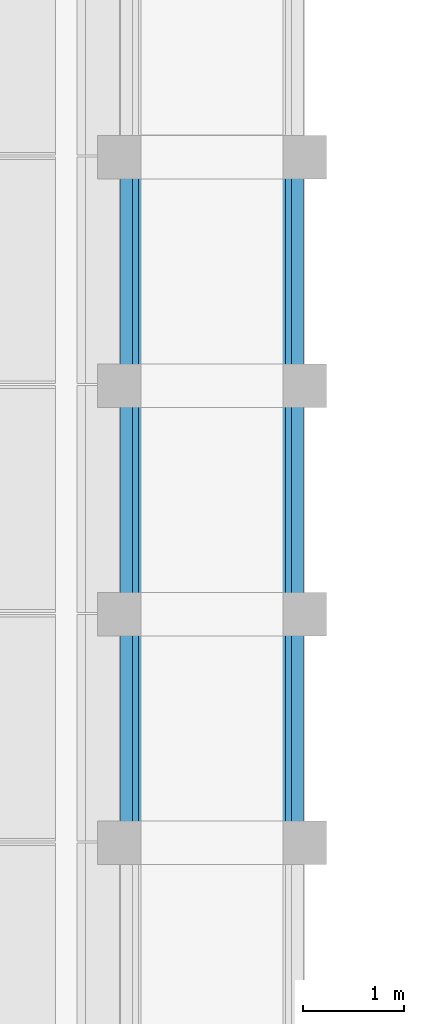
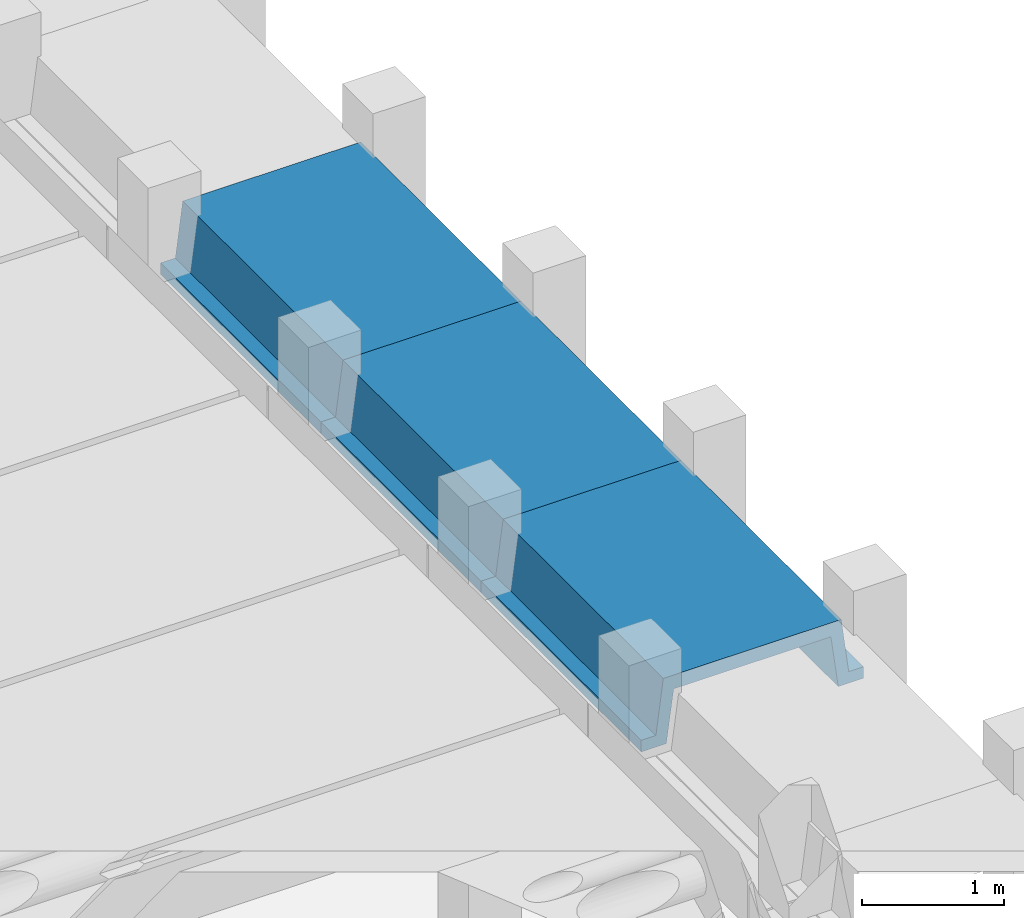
# One storey, part 4 of 21: 3 beams.
"""IFC2X3 building model written with IfcOpenShell, lengths in millimetres."""

from ifc_helpers import new_model, entity, si_unit, converted_unit, derived_unit, direction, frame, origin, place, context, subcontext, project, spatial, polyline, outline, extrude, material, type_object, element, save


model = new_model("IFC2X3")

# Units and contexts
model_context = context("Model", 3, precision=0.01, world=origin(), true_north=direction((6.12303176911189e-17, 1.0)))
body_context = subcontext(model_context, "Body", "Model", "MODEL_VIEW")
ifc_project = project(units=[si_unit("LENGTHUNIT", "METRE", prefix="MILLI"), si_unit("AREAUNIT", "SQUARE_METRE"), si_unit("VOLUMEUNIT", "CUBIC_METRE"), converted_unit("PLANEANGLEUNIT", "DEGREE", entity("IfcRatioMeasure", 0.0174532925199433), si_unit("PLANEANGLEUNIT", "RADIAN"), dimensions=[0, 0, 0, 0, 0, 0, 0]), si_unit("MASSUNIT", "GRAM", prefix="KILO"), derived_unit("MASSDENSITYUNIT", [(si_unit("MASSUNIT", "GRAM", prefix="KILO"), 1), (si_unit("LENGTHUNIT", "METRE"), -3)]), derived_unit("MOMENTOFINERTIAUNIT", [(si_unit("LENGTHUNIT", "METRE"), 4)]), si_unit("TIMEUNIT", "SECOND"), si_unit("FREQUENCYUNIT", "HERTZ"), si_unit("THERMODYNAMICTEMPERATUREUNIT", "DEGREE_CELSIUS"), derived_unit("THERMALTRANSMITTANCEUNIT", [(si_unit("MASSUNIT", "GRAM", prefix="KILO"), 1), (si_unit("THERMODYNAMICTEMPERATUREUNIT", "KELVIN"), -1), (si_unit("TIMEUNIT", "SECOND"), -3)]), derived_unit("VOLUMETRICFLOWRATEUNIT", [(si_unit("LENGTHUNIT", "METRE"), 3), (si_unit("TIMEUNIT", "SECOND"), -1)]), si_unit("ELECTRICCURRENTUNIT", "AMPERE"), si_unit("ELECTRICVOLTAGEUNIT", "VOLT"), si_unit("POWERUNIT", "WATT"), si_unit("FORCEUNIT", "NEWTON", prefix="KILO"), si_unit("ILLUMINANCEUNIT", "LUX"), si_unit("LUMINOUSFLUXUNIT", "LUMEN"), si_unit("LUMINOUSINTENSITYUNIT", "CANDELA"), derived_unit("USERDEFINED", [(si_unit("MASSUNIT", "GRAM", prefix="KILO"), -1), (si_unit("LENGTHUNIT", "METRE"), -2), (si_unit("TIMEUNIT", "SECOND"), 3), (si_unit("LUMINOUSFLUXUNIT", "LUMEN"), 1)]), derived_unit("LINEARVELOCITYUNIT", [(si_unit("LENGTHUNIT", "METRE"), 1), (si_unit("TIMEUNIT", "SECOND"), -1)]), si_unit("PRESSUREUNIT", "PASCAL"), derived_unit("USERDEFINED", [(si_unit("LENGTHUNIT", "METRE"), -2), (si_unit("MASSUNIT", "GRAM", prefix="KILO"), 1), (si_unit("TIMEUNIT", "SECOND"), -2)]), derived_unit("LINEARFORCEUNIT", [(si_unit("MASSUNIT", "GRAM", prefix="KILO"), 1), (si_unit("LENGTHUNIT", "METRE"), 1), (si_unit("TIMEUNIT", "SECOND"), -2), (si_unit("LENGTHUNIT", "METRE"), -1)]), derived_unit("PLANARFORCEUNIT", [(si_unit("MASSUNIT", "GRAM", prefix="KILO"), 1), (si_unit("LENGTHUNIT", "METRE"), 1), (si_unit("TIMEUNIT", "SECOND"), -2), (si_unit("LENGTHUNIT", "METRE"), -2)])], contexts=[model_context])

# Site, building, storey
site_placement = place(None, frame((10627.5135316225, 21939.0796949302, 0.0)))
site = spatial("IfcSite", under=ifc_project, at=site_placement, Name="Default", CompositionType="ELEMENT")
building_placement = place(site_placement, origin())
building = spatial("IfcBuilding", under=site, at=building_placement, CompositionType="ELEMENT")
storey_placement = place(building_placement, frame((0.0, 0.0, 7320.0)))
storey = spatial("IfcBuildingStorey", under=building, at=storey_placement, Name="R+2", CompositionType="ELEMENT", Elevation=7320.0)

# Beams
ifc_material = material(Name="Concrete, Precast Smooth, Light Grey")
beam_type = type_object("IfcBeamType", Name="Poutre petite:Poutre petite", PredefinedType="NOTDEFINED")
for number, where, z_axis, x_axis, name in (
    (1, (667.48646837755, -8379.07969493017, 3530.00034615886), (0.0, 0.0, 1.0), (0.0, 1.0, 0.0), "Poutre petite:Poutre petite"),
    (2, (667.48646837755, -10639.0796949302, 3530.00034615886), (0.0, 0.0, 1.0), (0.0, 1.0, 0.0), "Poutre petite:Poutre petite"),
    (3, (667.48646837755, -12899.0796949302, 3530.00034615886), (0.0, 0.0, 1.0), (0.0, 1.0, 0.0), "Poutre petite:Poutre petite"),
):
    element("IfcBeam", number, at=place(storey_placement, frame(where, z_axis=z_axis, x_axis=x_axis)), inside=storey, type_object=beam_type, material=ifc_material, Name=name, ObjectType="Poutre petite:Poutre petite", context=body_context, shape_type="SweptSolid", body=[
        extrude(outline(polyline([(103.333217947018, -905.013684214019), (203.333564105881, -905.013684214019), (203.333564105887, -700.013730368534), (-246.666782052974, -640.013684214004), (-246.666782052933, 640.013497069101), (203.333564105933, 700.013543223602), (203.333564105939, 905.014058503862), (103.333217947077, 905.014058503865), (103.333217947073, 785.01349706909), (-366.666782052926, 725.013497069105), (-366.666782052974, -725.013684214), (103.333217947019, -785.013684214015), (103.333217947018, -905.013684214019)])), frame((0.0, -0.000187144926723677, -366.66678205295), z_axis=(1.0, 0.0, 0.0), x_axis=(0.0, 0.0, -1.0)), (0.0, 0.0, 1.0), 2260.0),
    ])

save(model, "model.ifc")
